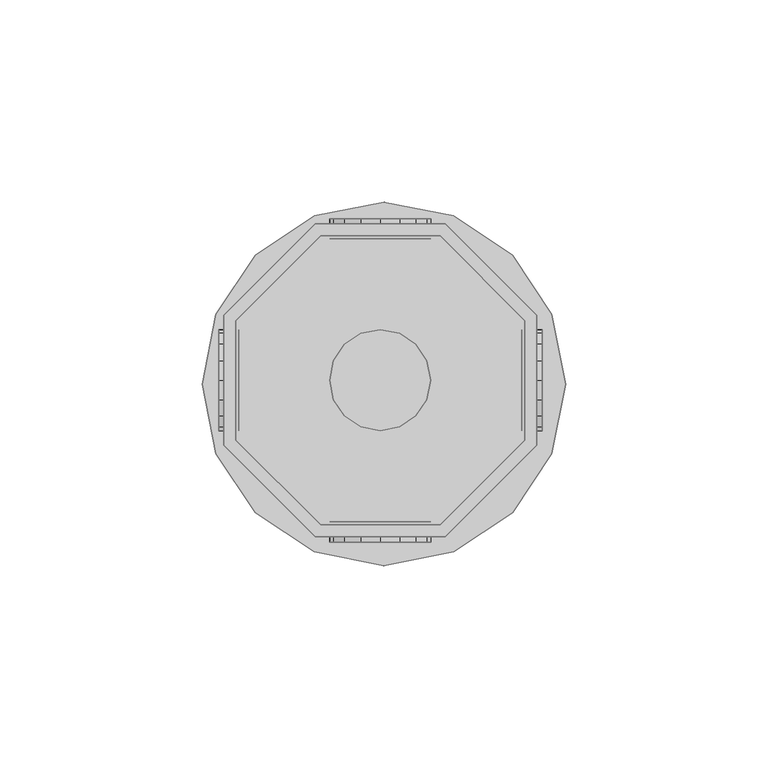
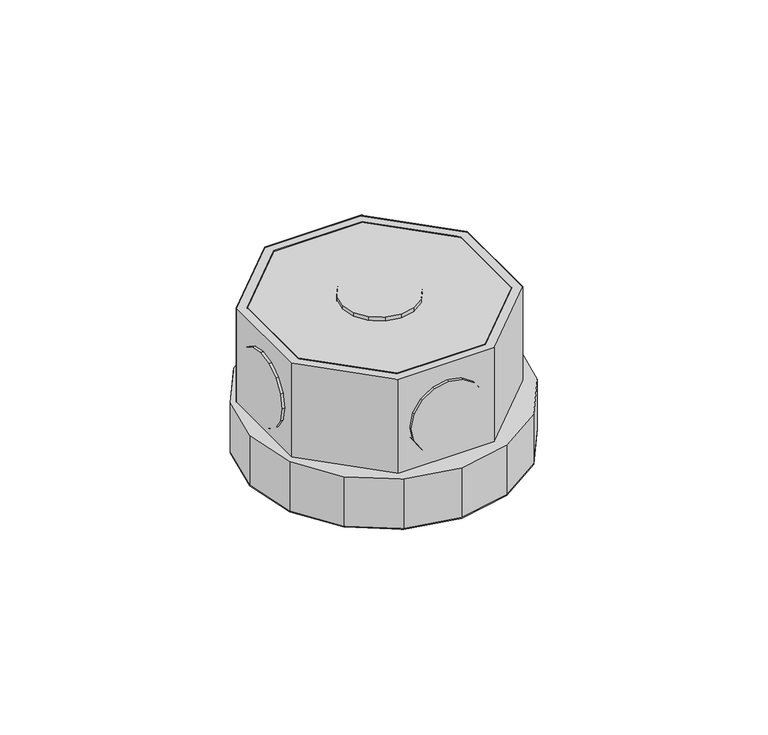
"""IFC4 building model written with IfcOpenShell, lengths in millimetres: light fixture geometry,  212940 :  212940."""

from ifc_helpers import new_model, si_unit, origin, place, context, project, spatial, triangles, source, transform, mapped, element, save


def light_fixture_21b29b9a(model_context):
    return source(origin(), model_context, "Body", "Tessellation", [
        triangles([(15984.9998749, 12407.9996063, 2924.5999741), (15955.4005188, 12407.9996063, 2975.400071), (15955.4005188, 12407.9996063, 2924.5999741), (15984.9998749, 12407.9996063, 2975.400071), (15986.1998016, 12333.4995026, 2924.5999741), (15954.0994354, 12333.4995026, 2975.400071), (15954.0994354, 12333.4995026, 2924.5999741), (15986.1998016, 12333.4995026, 2975.400071), (15934.3994751, 12386.9997253, 2975.400071), (15934.3994751, 12386.9997253, 2924.5999741), (16008.8995789, 12356.2004425, 2924.5999741), (16008.8995789, 12356.2004425, 2975.400071), (15934.3994751, 12357.4003693, 2975.400071), (15934.3994751, 12357.4003693, 2924.5999741), (16008.8995789, 12388.299646, 2924.5999741), (16008.8995789, 12388.299646, 2975.400071), (15955.4005188, 12336.5004822, 2975.400071), (15955.4005188, 12336.5004822, 2924.5999741), (15986.1998016, 12410.9994232, 2924.5999741), (15986.1998016, 12410.9994232, 2975.400071), (15984.9998749, 12336.5004822, 2924.5999741), (15984.9998749, 12336.5004822, 2975.400071), (15954.0994354, 12410.9994232, 2975.400071), (15954.0994354, 12410.9994232, 2924.5999741), (16005.899762, 12357.4003693, 2924.5999741), (16005.899762, 12357.4003693, 2975.400071), (15931.3996582, 12388.299646, 2975.400071), (15931.3996582, 12388.299646, 2924.5999741), (15931.3996582, 12356.2004425, 2975.400071), (16005.899762, 12386.9997253, 2975.400071), (16005.899762, 12386.9997253, 2924.5999741), (15931.3996582, 12356.2004425, 2924.5999741), (15934.3994751, 12357.4003693, 2972.3999634), (15955.4005188, 12336.5004822, 2972.3999634), (15984.9998749, 12336.5004822, 2972.3999634), (16005.899762, 12357.4003693, 2972.3999634), (16005.899762, 12386.9997253, 2972.3999634), (15984.9998749, 12407.9996063, 2972.3999634), (15955.4005188, 12407.9996063, 2972.3999634), (15934.3994751, 12386.9997253, 2972.3999634), (15931.3996582, 12388.299646, 2942.4000504), (15954.0994354, 12410.9994232, 2942.4000504), (15986.1998016, 12410.9994232, 2942.4000504), (16008.8995789, 12388.299646, 2942.4000504), (16008.8995789, 12356.2004425, 2942.4000504), (15986.1998016, 12333.4995026, 2942.4000504), (15954.0994354, 12333.4995026, 2942.4000504), (15931.3996582, 12356.2004425, 2942.4000504), (15953.7994537, 12329.7997284, 2942.4000504), (15929.4997742, 12354.1005707, 2942.4000504), (15939.2003448, 12339.5002991, 2942.4000504), (15926.0999817, 12371.2995209, 2942.4000504), (15929.4997742, 12388.5996277, 2942.4000504), (15939.2003448, 12403.1998993, 2942.4000504), (15953.7994537, 12412.90047, 2942.4000504), (15971.0995605, 12416.3002625, 2942.4000504), (15988.2996735, 12412.90047, 2942.4000504), (16012.6005157, 12388.5996277, 2942.4000504), (16002.8999451, 12403.1998993, 2942.4000504), (15971.0995605, 12326.299942, 2942.4000504), (15988.2996735, 12329.7997284, 2942.4000504), (16002.8999451, 12339.5002991, 2942.4000504), (16012.6005157, 12354.1005707, 2942.4000504), (16016.1003021, 12371.2995209, 2942.4000504), (15929.4997742, 12354.1005707, 2924.5999741), (15953.7994537, 12329.7997284, 2924.5999741), (15939.2003448, 12339.5002991, 2924.5999741), (15926.0999817, 12371.2995209, 2924.5999741), (15929.4997742, 12388.5996277, 2924.5999741), (15939.2003448, 12403.1998993, 2924.5999741), (15953.7994537, 12412.90047, 2924.5999741), (15971.0995605, 12416.3002625, 2924.5999741), (15988.2996735, 12412.90047, 2924.5999741), (16012.6005157, 12388.5996277, 2924.5999741), (16002.8999451, 12403.1998993, 2924.5999741), (15971.0995605, 12326.299942, 2924.5999741), (15988.2996735, 12329.7997284, 2924.5999741), (16002.8999451, 12339.5002991, 2924.5999741), (16012.6005157, 12354.1005707, 2924.5999741), (16016.1003021, 12371.2995209, 2924.5999741), (15958.6003235, 12412.2005127, 2952.6000092), (15965.3999084, 12412.2005127, 2945.9001274), (15961.3001587, 12412.2005127, 2948.5999626), (15957.7003784, 12412.2005127, 2957.4000069), (15970.1996155, 12412.2005127, 2944.8998978), (15958.6003235, 12412.2005127, 2962.2000046), (15975.0004852, 12412.2005127, 2945.9001274), (15961.3001587, 12412.2005127, 2966.2000511), (15979.0002411, 12412.2005127, 2948.5999626), (15965.3999084, 12412.2005127, 2968.8998863), (15981.7000763, 12412.2005127, 2952.6000092), (15970.1996155, 12412.2005127, 2969.900116), (15982.7000153, 12412.2005127, 2957.4000069), (15975.0004852, 12412.2005127, 2968.8998863), (15981.7000763, 12412.2005127, 2962.2000046), (15979.0002411, 12412.2005127, 2966.2000511), (15965.3999084, 12407.1996552, 2945.9001274), (15958.6003235, 12407.1996552, 2952.6000092), (15961.3001587, 12407.1996552, 2948.5999626), (15970.1996155, 12407.1996552, 2944.8998978), (15957.7003784, 12407.1996552, 2957.4000069), (15975.0004852, 12407.1996552, 2945.9001274), (15958.6003235, 12407.1996552, 2962.2000046), (15979.0002411, 12407.1996552, 2948.5999626), (15961.3001587, 12407.1996552, 2966.2000511), (15965.3999084, 12407.1996552, 2968.8998863), (15981.7000763, 12407.1996552, 2952.6000092), (15970.1996155, 12407.1996552, 2969.900116), (15982.7000153, 12407.1996552, 2957.4000069), (15975.0004852, 12407.1996552, 2968.8998863), (15981.7000763, 12407.1996552, 2962.2000046), (15979.0002411, 12407.1996552, 2966.2000511), (15958.6003235, 12337.2004395, 2952.6000092), (15965.3999084, 12337.2004395, 2945.9001274), (15961.3001587, 12337.2004395, 2948.5999626), (15957.7003784, 12337.2004395, 2957.4000069), (15970.1996155, 12337.2004395, 2944.8998978), (15958.6003235, 12337.2004395, 2962.2000046), (15975.0004852, 12337.2004395, 2945.9001274), (15961.3001587, 12337.2004395, 2966.2000511), (15979.0002411, 12337.2004395, 2948.5999626), (15965.3999084, 12337.2004395, 2968.8998863), (15981.7000763, 12337.2004395, 2952.6000092), (15970.1996155, 12337.2004395, 2969.900116), (15982.7000153, 12337.2004395, 2957.4000069), (15975.0004852, 12337.2004395, 2968.8998863), (15981.7000763, 12337.2004395, 2962.2000046), (15979.0002411, 12337.2004395, 2966.2000511), (15965.3999084, 12332.1995819, 2945.9001274), (15958.6003235, 12332.1995819, 2952.6000092), (15961.3001587, 12332.1995819, 2948.5999626), (15970.1996155, 12332.1995819, 2944.8998978), (15957.7003784, 12332.1995819, 2957.4000069), (15975.0004852, 12332.1995819, 2945.9001274), (15958.6003235, 12332.1995819, 2962.2000046), (15979.0002411, 12332.1995819, 2948.5999626), (15961.3001587, 12332.1995819, 2966.2000511), (15965.3999084, 12332.1995819, 2968.8998863), (15981.7000763, 12332.1995819, 2952.6000092), (15970.1996155, 12332.1995819, 2969.900116), (15982.7000153, 12332.1995819, 2957.4000069), (15975.0004852, 12332.1995819, 2968.8998863), (15981.7000763, 12332.1995819, 2962.2000046), (15979.0002411, 12332.1995819, 2966.2000511), (15935.1994263, 12367.3997589, 2945.9001274), (15935.1994263, 12360.7001678, 2952.6000092), (15935.1994263, 12363.4000031, 2948.5999626), (15935.1994263, 12372.1994659, 2944.8998978), (15935.1994263, 12359.7002289, 2957.4000069), (15935.1994263, 12377.0003357, 2945.9001274), (15935.1994263, 12360.7001678, 2962.2000046), (15935.1994263, 12381.1000854, 2948.5999626), (15935.1994263, 12363.4000031, 2966.2000511), (15935.1994263, 12367.3997589, 2968.8998863), (15935.1994263, 12383.7999207, 2952.6000092), (15935.1994263, 12372.1994659, 2969.900116), (15935.1994263, 12384.6998657, 2957.4000069), (15935.1994263, 12377.0003357, 2968.8998863), (15935.1994263, 12383.7999207, 2962.2000046), (15935.1994263, 12381.1000854, 2966.2000511), (15930.1997314, 12360.7001678, 2952.6000092), (15930.1997314, 12367.3997589, 2945.9001274), (15930.1997314, 12363.4000031, 2948.5999626), (15930.1997314, 12359.7002289, 2957.4000069), (15930.1997314, 12372.1994659, 2944.8998978), (15930.1997314, 12360.7001678, 2962.2000046), (15930.1997314, 12377.0003357, 2945.9001274), (15930.1997314, 12363.4000031, 2966.2000511), (15930.1997314, 12381.1000854, 2948.5999626), (15930.1997314, 12367.3997589, 2968.8998863), (15930.1997314, 12383.7999207, 2952.6000092), (15930.1997314, 12372.1994659, 2969.900116), (15930.1997314, 12384.6998657, 2957.4000069), (15930.1997314, 12377.0003357, 2968.8998863), (15930.1997314, 12383.7999207, 2962.2000046), (15930.1997314, 12381.1000854, 2966.2000511), (16010.1994995, 12367.3997589, 2945.9001274), (16010.1994995, 12360.7001678, 2952.6000092), (16010.1994995, 12363.4000031, 2948.5999626), (16010.1994995, 12372.1994659, 2944.8998978), (16010.1994995, 12359.7002289, 2957.4000069), (16010.1994995, 12377.0003357, 2945.9001274), (16010.1994995, 12360.7001678, 2962.2000046), (16010.1994995, 12381.1000854, 2948.5999626), (16010.1994995, 12363.4000031, 2966.2000511), (16010.1994995, 12367.3997589, 2968.8998863), (16010.1994995, 12383.7999207, 2952.6000092), (16010.1994995, 12372.1994659, 2969.900116), (16010.1994995, 12384.6998657, 2957.4000069), (16010.1994995, 12377.0003357, 2968.8998863), (16010.1994995, 12383.7999207, 2962.2000046), (16010.1994995, 12381.1000854, 2966.2000511), (16005.1998047, 12360.7001678, 2952.6000092), (16005.1998047, 12367.3997589, 2945.9001274), (16005.1998047, 12363.4000031, 2948.5999626), (16005.1998047, 12359.7002289, 2957.4000069), (16005.1998047, 12372.1994659, 2944.8998978), (16005.1998047, 12360.7001678, 2962.2000046), (16005.1998047, 12377.0003357, 2945.9001274), (16005.1998047, 12363.4000031, 2966.2000511), (16005.1998047, 12381.1000854, 2948.5999626), (16005.1998047, 12367.3997589, 2968.8998863), (16005.1998047, 12383.7999207, 2952.6000092), (16005.1998047, 12372.1994659, 2969.900116), (16005.1998047, 12384.6998657, 2957.4000069), (16005.1998047, 12377.0003357, 2968.8998863), (16005.1998047, 12383.7999207, 2962.2000046), (16005.1998047, 12381.1000854, 2966.2000511), (15965.3999084, 12360.7001678, 2976.9999733), (15958.6003235, 12367.3997589, 2976.9999733), (15961.3001587, 12363.4000031, 2976.9999733), (15957.7003784, 12372.1994659, 2976.9999733), (15970.1996155, 12359.7002289, 2976.9999733), (15958.6003235, 12377.0003357, 2976.9999733), (15975.0004852, 12360.7001678, 2976.9999733), (15961.3001587, 12381.1000854, 2976.9999733), (15979.0002411, 12363.4000031, 2976.9999733), (15965.3999084, 12383.7999207, 2976.9999733), (15981.7000763, 12367.3997589, 2976.9999733), (15970.1996155, 12384.6998657, 2976.9999733), (15982.7000153, 12372.1994659, 2976.9999733), (15975.0004852, 12383.7999207, 2976.9999733), (15981.7000763, 12377.0003357, 2976.9999733), (15979.0002411, 12381.1000854, 2976.9999733), (15958.6003235, 12367.3997589, 2971.9999878), (15965.3999084, 12360.7001678, 2971.9999878), (15961.3001587, 12363.4000031, 2971.9999878), (15957.7003784, 12372.1994659, 2971.9999878), (15970.1996155, 12359.7002289, 2971.9999878), (15958.6003235, 12377.0003357, 2971.9999878), (15975.0004852, 12360.7001678, 2971.9999878), (15961.3001587, 12381.1000854, 2971.9999878), (15979.0002411, 12363.4000031, 2971.9999878), (15965.3999084, 12383.7999207, 2971.9999878), (15981.7000763, 12367.3997589, 2971.9999878), (15970.1996155, 12384.6998657, 2971.9999878), (15982.7000153, 12372.1994659, 2971.9999878), (15975.0004852, 12383.7999207, 2971.9999878), (15981.7000763, 12377.0003357, 2971.9999878), (15979.0002411, 12381.1000854, 2971.9999878)], [[1, 2, 3], [2, 1, 4], [5, 6, 7], [6, 5, 8], [3, 9, 10], [9, 3, 2], [11, 8, 5], [8, 11, 12], [10, 13, 14], [13, 10, 9], [15, 12, 11], [12, 15, 16], [14, 17, 18], [17, 14, 13], [19, 16, 15], [16, 19, 20], [17, 21, 18], [21, 17, 22], [23, 19, 24], [19, 23, 20], [22, 25, 21], [25, 22, 26], [27, 24, 28], [24, 27, 23], [6, 13, 29], [29, 13, 27], [27, 13, 9], [27, 9, 23], [23, 9, 2], [23, 2, 4], [23, 4, 20], [20, 4, 30], [8, 17, 6], [6, 17, 13], [17, 8, 22], [12, 22, 8], [22, 12, 26], [30, 26, 12], [16, 30, 12], [20, 30, 16], [30, 1, 31], [1, 30, 4], [6, 32, 7], [32, 6, 29], [32, 14, 7], [28, 14, 32], [14, 28, 10], [24, 10, 28], [10, 24, 3], [1, 3, 24], [19, 1, 24], [31, 1, 19], [7, 18, 5], [14, 18, 7], [5, 18, 21], [5, 21, 11], [11, 21, 25], [11, 25, 31], [11, 31, 15], [15, 31, 19], [26, 31, 25], [31, 26, 30], [29, 28, 32], [28, 29, 27], [17, 33, 34], [33, 17, 13], [35, 17, 34], [17, 35, 22], [36, 22, 35], [22, 36, 26], [37, 26, 36], [26, 37, 30], [38, 30, 37], [30, 38, 4], [2, 38, 39], [38, 2, 4], [17, 9, 13], [9, 17, 22], [9, 22, 2], [2, 22, 26], [2, 26, 4], [4, 26, 30], [13, 40, 33], [40, 13, 9], [40, 34, 33], [35, 34, 40], [35, 40, 39], [35, 39, 36], [36, 39, 38], [36, 38, 37], [9, 39, 40], [39, 9, 2], [24, 41, 28], [41, 24, 42], [19, 42, 24], [42, 19, 43], [44, 19, 15], [19, 44, 43], [45, 15, 11], [15, 45, 44], [46, 11, 5], [11, 46, 45], [47, 5, 7], [5, 47, 46], [32, 47, 7], [47, 32, 48], [28, 48, 32], [48, 28, 41], [49, 50, 51], [48, 50, 49], [50, 48, 52], [41, 52, 48], [52, 41, 53], [53, 41, 54], [42, 54, 41], [54, 42, 55], [55, 42, 43], [55, 43, 56], [56, 43, 57], [57, 43, 44], [57, 44, 58], [57, 58, 59], [47, 49, 60], [49, 47, 48], [47, 60, 46], [61, 46, 60], [46, 61, 62], [46, 62, 45], [45, 62, 63], [44, 45, 63], [44, 63, 64], [44, 64, 58], [65, 66, 67], [66, 65, 32], [68, 32, 65], [32, 68, 28], [28, 68, 69], [70, 28, 69], [28, 70, 24], [71, 24, 70], [19, 24, 71], [19, 71, 72], [73, 19, 72], [19, 73, 15], [74, 15, 73], [74, 73, 75], [76, 66, 7], [32, 7, 66], [5, 76, 7], [76, 5, 77], [77, 5, 78], [11, 78, 5], [78, 11, 79], [79, 11, 15], [79, 15, 80], [80, 15, 74], [57, 75, 73], [75, 57, 59], [56, 73, 72], [73, 56, 57], [55, 72, 71], [72, 55, 56], [54, 71, 70], [71, 54, 55], [53, 70, 69], [70, 53, 54], [52, 69, 68], [69, 52, 53], [50, 68, 65], [68, 50, 52], [51, 65, 67], [65, 51, 50], [66, 51, 67], [51, 66, 49], [76, 49, 66], [49, 76, 60], [77, 60, 76], [60, 77, 61], [78, 61, 77], [61, 78, 62], [79, 62, 78], [62, 79, 63], [80, 63, 79], [63, 80, 64], [75, 58, 74], [58, 75, 59], [74, 64, 80], [64, 74, 58], [81, 82, 83], [82, 81, 84], [85, 82, 84], [85, 84, 86], [87, 85, 86], [87, 86, 88], [87, 88, 89], [89, 88, 90], [89, 90, 91], [91, 90, 92], [91, 92, 93], [93, 92, 94], [93, 94, 95], [95, 94, 96], [97, 98, 99], [98, 97, 100], [101, 98, 100], [101, 100, 102], [103, 101, 102], [103, 102, 104], [103, 104, 105], [105, 104, 106], [106, 104, 107], [106, 107, 108], [108, 107, 109], [108, 109, 110], [110, 109, 111], [110, 111, 112], [87, 104, 102], [104, 87, 89], [85, 102, 100], [102, 85, 87], [82, 100, 97], [100, 82, 85], [83, 97, 99], [97, 83, 82], [98, 83, 99], [83, 98, 81], [101, 81, 98], [81, 101, 84], [103, 84, 101], [84, 103, 86], [105, 86, 103], [86, 105, 88], [106, 88, 105], [88, 106, 90], [108, 90, 106], [90, 108, 92], [110, 92, 108], [92, 110, 94], [112, 94, 110], [94, 112, 96], [95, 112, 111], [112, 95, 96], [93, 111, 109], [111, 93, 95], [89, 107, 104], [107, 89, 91], [91, 109, 107], [109, 91, 93], [113, 114, 115], [114, 113, 116], [117, 114, 116], [117, 116, 118], [119, 117, 118], [119, 118, 120], [119, 120, 121], [121, 120, 122], [121, 122, 123], [123, 122, 124], [123, 124, 125], [125, 124, 126], [125, 126, 127], [127, 126, 128], [129, 130, 131], [130, 129, 132], [133, 130, 132], [133, 132, 134], [135, 133, 134], [135, 134, 136], [135, 136, 137], [137, 136, 138], [138, 136, 139], [138, 139, 140], [140, 139, 141], [140, 141, 142], [142, 141, 143], [142, 143, 144], [119, 136, 134], [136, 119, 121], [117, 134, 132], [134, 117, 119], [114, 132, 129], [132, 114, 117], [115, 129, 131], [129, 115, 114], [130, 115, 131], [115, 130, 113], [133, 113, 130], [113, 133, 116], [135, 116, 133], [116, 135, 118], [137, 118, 135], [118, 137, 120], [138, 120, 137], [120, 138, 122], [140, 122, 138], [122, 140, 124], [142, 124, 140], [124, 142, 126], [144, 126, 142], [126, 144, 128], [127, 144, 143], [144, 127, 128], [125, 143, 141], [143, 125, 127], [121, 139, 136], [139, 121, 123], [123, 141, 139], [141, 123, 125], [145, 146, 147], [146, 145, 148], [149, 146, 148], [149, 148, 150], [151, 149, 150], [151, 150, 152], [151, 152, 153], [153, 152, 154], [154, 152, 155], [154, 155, 156], [156, 155, 157], [156, 157, 158], [158, 157, 159], [158, 159, 160], [161, 162, 163], [162, 161, 164], [165, 162, 164], [165, 164, 166], [167, 165, 166], [167, 166, 168], [169, 167, 168], [169, 168, 170], [169, 170, 171], [171, 170, 172], [171, 172, 173], [173, 172, 174], [173, 174, 175], [175, 174, 176], [158, 176, 174], [176, 158, 160], [156, 174, 172], [174, 156, 158], [154, 172, 170], [172, 154, 156], [153, 170, 168], [170, 153, 154], [151, 168, 166], [168, 151, 153], [149, 166, 164], [166, 149, 151], [146, 164, 161], [164, 146, 149], [147, 161, 163], [161, 147, 146], [162, 147, 163], [147, 162, 145], [165, 145, 162], [145, 165, 148], [167, 148, 165], [148, 167, 150], [169, 150, 167], [150, 169, 152], [171, 152, 169], [152, 171, 155], [173, 155, 171], [155, 173, 157], [176, 159, 175], [159, 176, 160], [175, 157, 173], [157, 175, 159], [177, 178, 179], [178, 177, 180], [181, 178, 180], [181, 180, 182], [183, 181, 182], [183, 182, 184], [183, 184, 185], [185, 184, 186], [186, 184, 187], [186, 187, 188], [188, 187, 189], [188, 189, 190], [190, 189, 191], [190, 191, 192], [193, 194, 195], [194, 193, 196], [197, 194, 196], [197, 196, 198], [199, 197, 198], [199, 198, 200], [201, 199, 200], [201, 200, 202], [201, 202, 203], [203, 202, 204], [203, 204, 205], [205, 204, 206], [205, 206, 207], [207, 206, 208], [190, 208, 206], [208, 190, 192], [188, 206, 204], [206, 188, 190], [186, 204, 202], [204, 186, 188], [185, 202, 200], [202, 185, 186], [183, 200, 198], [200, 183, 185], [181, 198, 196], [198, 181, 183], [178, 196, 193], [196, 178, 181], [179, 193, 195], [193, 179, 178], [194, 179, 195], [179, 194, 177], [197, 177, 194], [177, 197, 180], [199, 180, 197], [180, 199, 182], [201, 182, 199], [182, 201, 184], [203, 184, 201], [184, 203, 187], [205, 187, 203], [187, 205, 189], [208, 191, 207], [191, 208, 192], [207, 189, 205], [189, 207, 191], [209, 210, 211], [212, 210, 209], [212, 209, 213], [214, 212, 213], [214, 213, 215], [216, 214, 215], [216, 215, 217], [216, 217, 218], [218, 217, 219], [218, 219, 220], [220, 219, 221], [220, 221, 222], [222, 221, 223], [222, 223, 224], [225, 226, 227], [226, 225, 228], [229, 226, 228], [229, 228, 230], [231, 229, 230], [231, 230, 232], [231, 232, 233], [233, 232, 234], [233, 234, 235], [235, 234, 236], [235, 236, 237], [237, 236, 238], [237, 238, 239], [239, 238, 240], [222, 240, 238], [240, 222, 224], [220, 238, 236], [238, 220, 222], [218, 236, 234], [236, 218, 220], [216, 234, 232], [234, 216, 218], [214, 232, 230], [232, 214, 216], [212, 230, 228], [230, 212, 214], [210, 228, 225], [228, 210, 212], [211, 225, 227], [225, 211, 210], [226, 211, 227], [211, 226, 209], [229, 209, 226], [209, 229, 213], [231, 213, 229], [213, 231, 215], [233, 215, 231], [215, 233, 217], [235, 217, 233], [217, 235, 219], [237, 219, 235], [219, 237, 221], [240, 223, 239], [223, 240, 224], [239, 221, 237], [221, 239, 223]], closed=False),
    ])


if __name__ == "__main__":
    model = new_model("IFC4")
    model_context = context("Model", 3, world=origin())
    ifc_project = project(units=[si_unit("LENGTHUNIT", "METRE", prefix="MILLI")], contexts=[model_context])
    site = spatial("IfcSite", under=ifc_project)
    building = spatial("IfcBuilding", under=site)
    placement = place(None, origin())
    light_fixture_shape = light_fixture_21b29b9a(model_context)
    element("IfcLightFixture", 1, ObjectType=" 212940 :  212940", at=placement, inside=building, context=model_context, shape_type="MappedRepresentation", body=[
        mapped(light_fixture_shape, transform((0.0, 0.0, 0.0), x_axis=(1.0, 0.0, 0.0), y_axis=(0.0, 1.0, 0.0), z_axis=(0.0, 0.0, 1.0))),
    ])
    save(model, "model.ifc")
